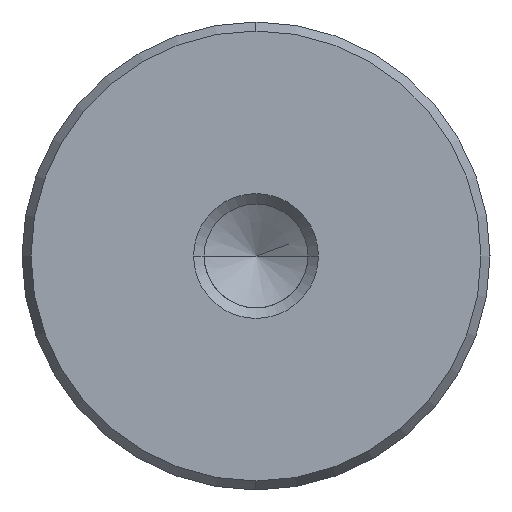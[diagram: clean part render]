
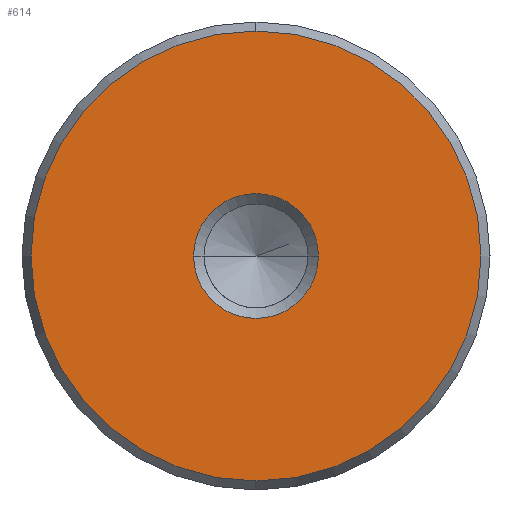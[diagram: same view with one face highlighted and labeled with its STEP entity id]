
A CAD part, left-side view. The second image highlights one B-rep face of the part: STEP entity #614.
In plain terms, the highlighted planar face has unit normal (-1, 0, 0).
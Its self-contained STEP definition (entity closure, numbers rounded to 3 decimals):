
#528=CARTESIAN_POINT('Vertex',(0.,0.,-14.423)) ;
#531=CARTESIAN_POINT('Axis2P3D Location',(0.,0.,0.)) ;
#535=CARTESIAN_POINT('Vertex',(0.,14.423,0.)) ;
#538=CARTESIAN_POINT('Axis2P3D Location',(0.,0.,0.)) ;
#542=CARTESIAN_POINT('Vertex',(0.,0.,14.423)) ;
#564=CARTESIAN_POINT('Axis2P3D Location',(0.,0.,0.)) ;
#568=CARTESIAN_POINT('Vertex',(0.,-14.423,0.)) ;
#571=CARTESIAN_POINT('Axis2P3D Location',(0.,0.,0.)) ;
#585=CARTESIAN_POINT('Axis2P3D Location',(0.,0.,0.)) ;
#596=CARTESIAN_POINT('Axis2P3D Location',(0.,0.,0.)) ;
#600=CARTESIAN_POINT('Vertex',(0.,4.,0.)) ;
#602=CARTESIAN_POINT('Vertex',(0.,-4.,0.)) ;
#605=CARTESIAN_POINT('Axis2P3D Location',(0.,0.,0.)) ;
#532=DIRECTION('Axis2P3D Direction',(1.,0.,-0.)) ;
#539=DIRECTION('Axis2P3D Direction',(1.,0.,-0.)) ;
#565=DIRECTION('Axis2P3D Direction',(1.,0.,-0.)) ;
#572=DIRECTION('Axis2P3D Direction',(1.,0.,-0.)) ;
#586=DIRECTION('Axis2P3D Direction',(1.,0.,-0.)) ;
#587=DIRECTION('Axis2P3D XDirection',(-0.,0.,-1.)) ;
#597=DIRECTION('Axis2P3D Direction',(1.,0.,-0.)) ;
#606=DIRECTION('Axis2P3D Direction',(1.,0.,-0.)) ;
#533=AXIS2_PLACEMENT_3D('Circle Axis2P3D',#531,#532,$) ;
#540=AXIS2_PLACEMENT_3D('Circle Axis2P3D',#538,#539,$) ;
#566=AXIS2_PLACEMENT_3D('Circle Axis2P3D',#564,#565,$) ;
#573=AXIS2_PLACEMENT_3D('Circle Axis2P3D',#571,#572,$) ;
#588=AXIS2_PLACEMENT_3D('Plane Axis2P3D',#585,#586,#587) ;
#598=AXIS2_PLACEMENT_3D('Circle Axis2P3D',#596,#597,$) ;
#607=AXIS2_PLACEMENT_3D('Circle Axis2P3D',#605,#606,$) ;
#591=ORIENTED_EDGE('',*,*,#537,.F.) ;
#592=ORIENTED_EDGE('',*,*,#575,.F.) ;
#593=ORIENTED_EDGE('',*,*,#570,.F.) ;
#594=ORIENTED_EDGE('',*,*,#544,.F.) ;
#611=ORIENTED_EDGE('',*,*,#604,.T.) ;
#612=ORIENTED_EDGE('',*,*,#609,.T.) ;
#613=FACE_BOUND('',#610,.T.) ;
#614=ADVANCED_FACE('720-30x224',(#595,#613),#589,.F.) ;
#534=CIRCLE('generated circle',#533,14.423) ;
#541=CIRCLE('generated circle',#540,14.423) ;
#567=CIRCLE('generated circle',#566,14.423) ;
#574=CIRCLE('generated circle',#573,14.423) ;
#599=CIRCLE('generated circle',#598,4.) ;
#608=CIRCLE('generated circle',#607,4.) ;
#537=EDGE_CURVE('',#529,#536,#534,.T.) ;
#544=EDGE_CURVE('',#536,#543,#541,.T.) ;
#570=EDGE_CURVE('',#543,#569,#567,.T.) ;
#575=EDGE_CURVE('',#569,#529,#574,.T.) ;
#604=EDGE_CURVE('',#601,#603,#599,.T.) ;
#609=EDGE_CURVE('',#603,#601,#608,.T.) ;
#590=EDGE_LOOP('',(#591,#592,#593,#594)) ;
#610=EDGE_LOOP('',(#611,#612)) ;
#595=FACE_OUTER_BOUND('',#590,.T.) ;
#589=PLANE('Plane',#588) ;
#529=VERTEX_POINT('',#528) ;
#536=VERTEX_POINT('',#535) ;
#543=VERTEX_POINT('',#542) ;
#569=VERTEX_POINT('',#568) ;
#601=VERTEX_POINT('',#600) ;
#603=VERTEX_POINT('',#602) ;
